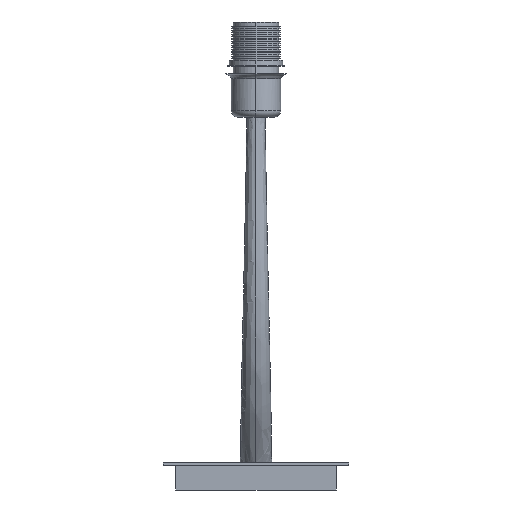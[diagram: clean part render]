
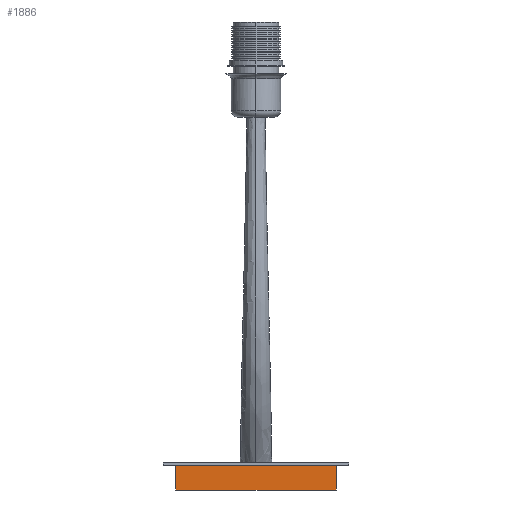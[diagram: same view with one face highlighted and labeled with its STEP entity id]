
A CAD part, front view. The second image highlights one B-rep face of the part: STEP entity #1886.
In plain terms, the highlighted planar face has unit normal (0, -1, 0).
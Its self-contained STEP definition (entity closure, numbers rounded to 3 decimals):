
#234=FACE_OUTER_BOUND('',#374,.T.);
#374=EDGE_LOOP('',(#1331,#1332,#1333,#1334));
#507=LINE('',#3734,#646);
#511=LINE('',#3741,#650);
#512=LINE('',#3744,#651);
#513=LINE('',#3745,#652);
#646=VECTOR('',#2354,304.8);
#650=VECTOR('',#2360,304.8);
#651=VECTOR('',#2363,304.8);
#652=VECTOR('',#2364,304.8);
#828=VERTEX_POINT('',#3731);
#829=VERTEX_POINT('',#3733);
#831=VERTEX_POINT('',#3738);
#832=VERTEX_POINT('',#3743);
#997=EDGE_CURVE('',#829,#828,#507,.T.);
#1001=EDGE_CURVE('',#831,#829,#511,.T.);
#1002=EDGE_CURVE('',#831,#832,#512,.T.);
#1003=EDGE_CURVE('',#832,#828,#513,.T.);
#1331=ORIENTED_EDGE('',*,*,#1002,.F.);
#1332=ORIENTED_EDGE('',*,*,#1001,.T.);
#1333=ORIENTED_EDGE('',*,*,#997,.T.);
#1334=ORIENTED_EDGE('',*,*,#1003,.F.);
#1801=PLANE('',#2043);
#1886=ADVANCED_FACE('',(#234),#1801,.T.);
#2043=AXIS2_PLACEMENT_3D('',#3742,#2361,#2362);
#2354=DIRECTION('',(-1.,0.,0.));
#2360=DIRECTION('',(0.,0.,1.));
#2361=DIRECTION('center_axis',(0.,-1.,0.));
#2362=DIRECTION('ref_axis',(0.,0.,-1.));
#2363=DIRECTION('',(-1.,0.,0.));
#2364=DIRECTION('',(0.,0.,1.));
#3731=CARTESIAN_POINT('',(-65.,-65.,20.));
#3733=CARTESIAN_POINT('',(65.,-65.,20.));
#3734=CARTESIAN_POINT('',(65.,-65.,20.));
#3738=CARTESIAN_POINT('',(65.,-65.,0.));
#3741=CARTESIAN_POINT('',(65.,-65.,0.));
#3742=CARTESIAN_POINT('Origin',(-65.,-65.,22.));
#3743=CARTESIAN_POINT('',(-65.,-65.,0.));
#3744=CARTESIAN_POINT('',(65.,-65.,0.));
#3745=CARTESIAN_POINT('',(-65.,-65.,0.));
